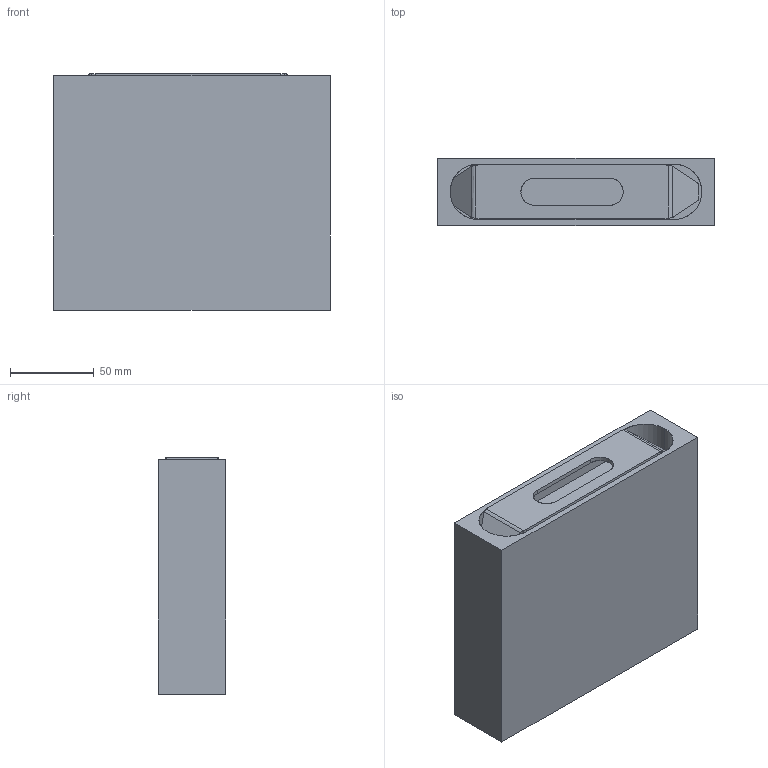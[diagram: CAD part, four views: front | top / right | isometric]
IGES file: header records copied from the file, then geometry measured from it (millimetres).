
Start section: SolidWorks IGES file using analytic representation for surfaces
Global section: file name: C:\Users\tungari.NEMOLIGHTING\Desktop\3D\WALL\3D_FIX_WALL_LEDDD\DEF\3D_FIX_WALL_LED.IGS; native system: SolidWorks 2016; preprocessor: SolidWorks 2016; author: tungari; date: 180312.173749; units: millimetre
Bounding box: 165 x 40 x 141.03 mm (x, y, z)
Surface area: 109849.3 mm2 (no closed solid volume)
Topology: 0 solids, 0 shells, 77 faces, 956 edges, 956 vertices
Faces by surface type: bspline 39, revolution 38
